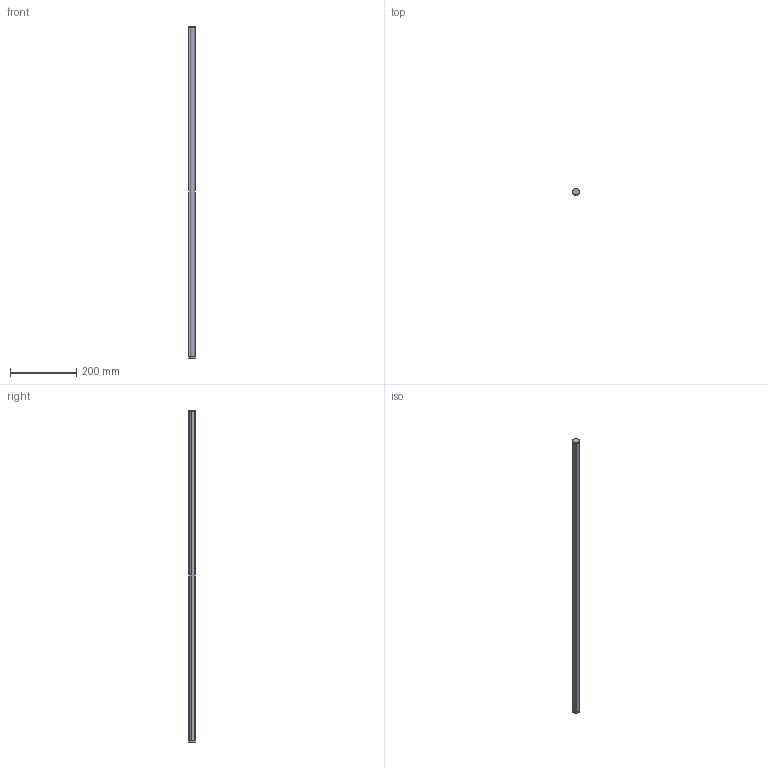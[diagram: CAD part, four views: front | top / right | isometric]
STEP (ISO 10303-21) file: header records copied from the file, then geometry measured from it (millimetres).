
FILE_DESCRIPTION (( 'STEP AP214' ), '1' );
FILE_NAME ('Cilon_Rail_1000.STEP', '2018-12-04T03:05:58', ( '' ), ( '' ), 'SwSTEP 2.0', 'SolidWorks 2017', '' );
FILE_SCHEMA (( 'AUTOMOTIVE_DESIGN' ));
Length unit declared in the file: millimetre
Products named in the file (1): Cilon_Rail_1000
Bounding box: 20 x 20 x 1000 mm (x, y, z)
Volume: 162112.2 mm3; surface area: 173375.2 mm2
Topology: 1 solids, 4 shells, 116 faces, 318 edges, 212 vertices
Faces by surface type: cylinder 68, plane 48
Entity records: 3766 total; most frequent: DIRECTION 688, CARTESIAN_POINT 647, ORIENTED_EDGE 636, EDGE_CURVE 318, AXIS2_PLACEMENT_3D 253, VERTEX_POINT 212, LINE 182, VECTOR 182
